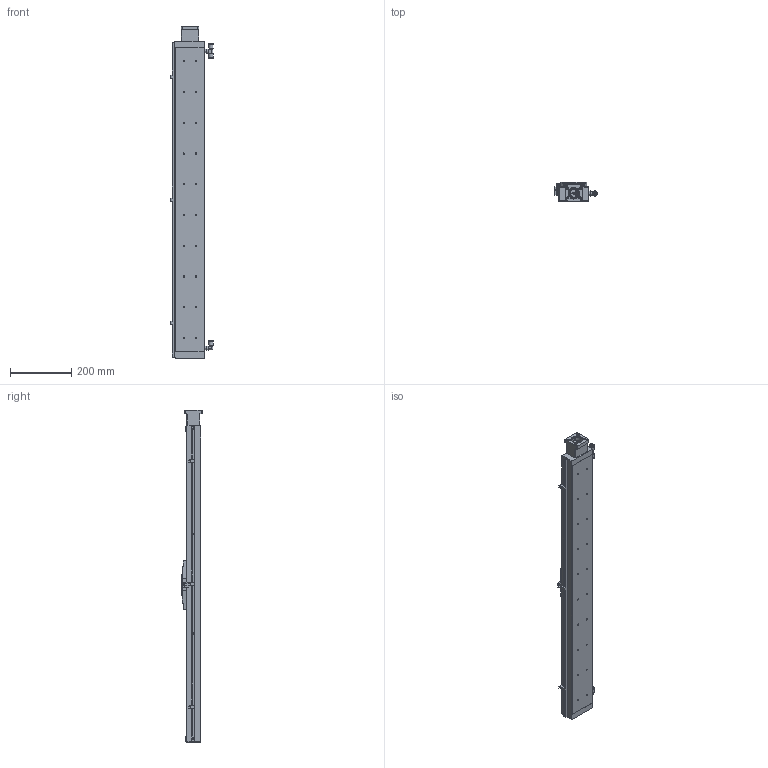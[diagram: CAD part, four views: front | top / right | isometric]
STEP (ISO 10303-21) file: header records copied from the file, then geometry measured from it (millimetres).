
FILE_DESCRIPTION((''),'2;1');
FILE_NAME('E:\libraries\UIA actuator library 2016\Clean room actuator\UIA098CR12DC\UIA098CR12 stp file 05May16\UIA098CR12DC-800-R16_ _-M23-P13-C10-S.stp','2016-05-09T16:35:32',('h029'),(''),'Autodesk Inventor 11','Autodesk Inventor 11','');
FILE_SCHEMA(('AUTOMOTIVE_DESIGN { 1 0 10303 214 1 1 1 1 }'));
Length unit declared in the file: millimetre
Products named in the file (12): UIA098CR12DC-800; body, UIA098CR12DC-800; carriage, UIA098CR12DC; Sensor Switch, UIA098CR12DC; SOH-25C; SOH-25C-2; SOH-25C-3; SOH-25C-1; Motor mount; Sensor Rail, UIA098CR12DC-800_MIR; vacuum port 1, UIA098CR12DC_MIR; vacuum port 2, UIA098CR12DC_MIR
Assembly tree (11 placements, depth 3):
  UIA098CR12DC-800
    body, UIA098CR12DC-800
    carriage, UIA098CR12DC
    Sensor Switch, UIA098CR12DC
    SOH-25C
      SOH-25C-2
      SOH-25C-3
      SOH-25C-1
    Motor mount
    Sensor Rail, UIA098CR12DC-800_MIR
    vacuum port 1, UIA098CR12DC_MIR
    vacuum port 2, UIA098CR12DC_MIR
Bounding box: 138.4 x 65.5 x 1080 mm (x, y, z)
Volume: 4892146.3 mm3; surface area: 449681.4 mm2
Topology: 10 solids, 10 shells, 694 faces, 1791 edges, 1168 vertices
Faces by surface type: bspline 308, plane 295, cylinder 87, cone 4
Full cylindrical faces by diameter (mm): 3.5 x4, 5.6 x8, 8 x4, 9 x2, 10 x1, 13 x1, 15 x2, 18 x1, 25.5 x3, 37 x1, 38.1 x1
Entity records: 22461 total; most frequent: CARTESIAN_POINT 6708, ORIENTED_EDGE 3190, DIRECTION 2803, EDGE_CURVE 1595, VECTOR 1139, LINE 1139, VERTEX_POINT 1109, EDGE_LOOP 968
